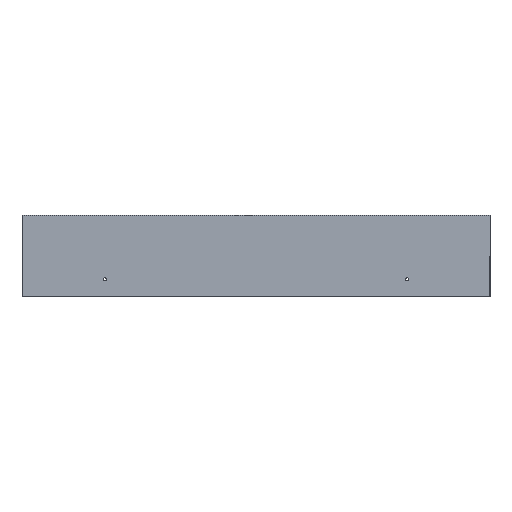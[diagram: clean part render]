
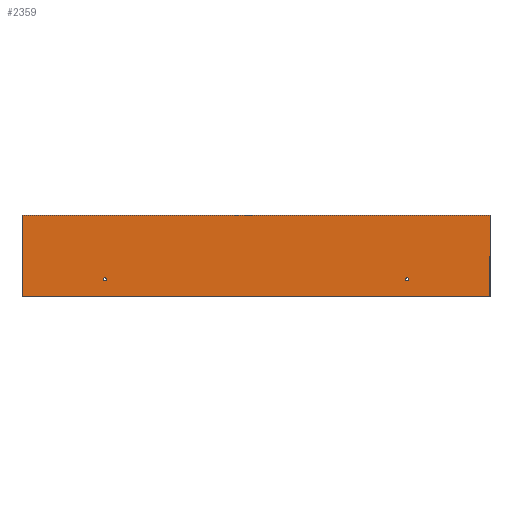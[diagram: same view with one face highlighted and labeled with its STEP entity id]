
A CAD part, front view. The second image highlights one B-rep face of the part: STEP entity #2359.
In plain terms, the highlighted planar face has unit normal (0, -1, 0).
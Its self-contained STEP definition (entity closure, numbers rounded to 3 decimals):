
#38=FACE_BOUND('',#375,.T.);
#39=FACE_BOUND('',#376,.T.);
#113=PLANE('',#2604);
#232=FACE_OUTER_BOUND('',#374,.T.);
#374=EDGE_LOOP('',(#2081,#2082,#2083,#2084));
#375=EDGE_LOOP('',(#2085));
#376=EDGE_LOOP('',(#2086));
#490=LINE('',#3634,#714);
#614=LINE('',#3963,#838);
#615=LINE('',#3964,#839);
#616=LINE('',#3965,#840);
#714=VECTOR('',#2914,10.);
#838=VECTOR('',#3280,10.);
#839=VECTOR('',#3281,10.);
#840=VECTOR('',#3282,10.);
#908=CIRCLE('',#2465,1.);
#910=CIRCLE('',#2469,1.);
#1084=VERTEX_POINT('',#3594);
#1086=VERTEX_POINT('',#3602);
#1094=VERTEX_POINT('',#3632);
#1095=VERTEX_POINT('',#3633);
#1178=VERTEX_POINT('',#3961);
#1179=VERTEX_POINT('',#3962);
#1327=EDGE_CURVE('',#1084,#1084,#908,.T.);
#1331=EDGE_CURVE('',#1086,#1086,#910,.T.);
#1346=EDGE_CURVE('',#1094,#1095,#490,.T.);
#1510=EDGE_CURVE('',#1178,#1179,#614,.T.);
#1511=EDGE_CURVE('',#1179,#1095,#615,.T.);
#1512=EDGE_CURVE('',#1178,#1094,#616,.T.);
#2081=ORIENTED_EDGE('',*,*,#1510,.T.);
#2082=ORIENTED_EDGE('',*,*,#1511,.T.);
#2083=ORIENTED_EDGE('',*,*,#1346,.F.);
#2084=ORIENTED_EDGE('',*,*,#1512,.F.);
#2085=ORIENTED_EDGE('',*,*,#1327,.T.);
#2086=ORIENTED_EDGE('',*,*,#1331,.T.);
#2359=ADVANCED_FACE('',(#232,#38,#39),#113,.T.);
#2465=AXIS2_PLACEMENT_3D('',#3595,#2867,#2868);
#2469=AXIS2_PLACEMENT_3D('',#3603,#2877,#2878);
#2604=AXIS2_PLACEMENT_3D('',#3960,#3278,#3279);
#2867=DIRECTION('center_axis',(0.,1.,0.));
#2868=DIRECTION('ref_axis',(-1.,0.,0.));
#2877=DIRECTION('center_axis',(0.,1.,0.));
#2878=DIRECTION('ref_axis',(-1.,0.,0.));
#2914=DIRECTION('',(1.,0.,0.));
#3278=DIRECTION('center_axis',(0.,-1.,0.));
#3279=DIRECTION('ref_axis',(1.,0.,0.));
#3280=DIRECTION('',(1.,0.,0.));
#3281=DIRECTION('',(0.,0.,1.));
#3282=DIRECTION('',(0.,0.,1.));
#3594=CARTESIAN_POINT('',(-52.,-300.,11.));
#3595=CARTESIAN_POINT('Origin',(-53.,-300.,11.));
#3602=CARTESIAN_POINT('',(-246.,-300.,11.));
#3603=CARTESIAN_POINT('Origin',(-247.,-300.,11.));
#3632=CARTESIAN_POINT('',(-300.,-300.,52.));
#3633=CARTESIAN_POINT('',(0.,-300.,52.));
#3634=CARTESIAN_POINT('',(0.,-300.,52.));
#3960=CARTESIAN_POINT('Origin',(-300.,-300.,0.));
#3961=CARTESIAN_POINT('',(-300.,-300.,0.));
#3962=CARTESIAN_POINT('',(0.,-300.,0.));
#3963=CARTESIAN_POINT('',(-300.,-300.,0.));
#3964=CARTESIAN_POINT('',(0.,-300.,0.));
#3965=CARTESIAN_POINT('',(-300.,-300.,0.));
